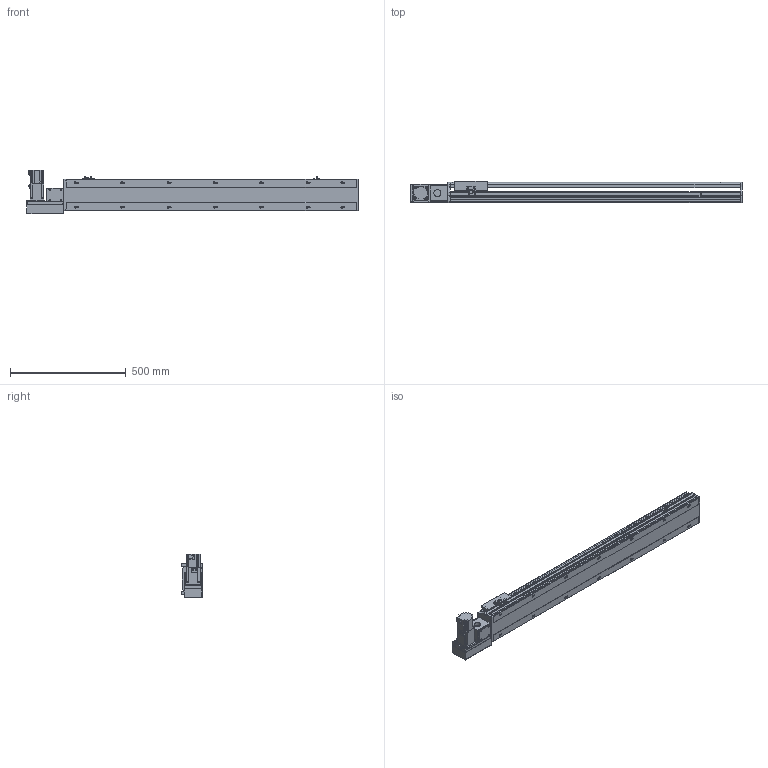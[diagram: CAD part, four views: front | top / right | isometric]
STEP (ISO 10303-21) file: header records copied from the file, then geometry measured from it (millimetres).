
FILE_DESCRIPTION(/* description */ ('STEP AP214'),/* implementation_level */ '2;1');
FILE_NAME(/* name */ 'PBS140S-P40-S1000-L-T40-C1-N(0)',/* time_stamp */ '2022-06-09T02:01:24+02:00',/* author */ ('License CC BY-ND 4.0'),/* organization */ ('CADENAS'),/* preprocessor_version */ 'ST-DEVELOPER v18.102',/* originating_system */ 'PARTsolutions',/* authorisation */ ' ');
FILE_SCHEMA (('AUTOMOTIVE_DESIGN {1 0 10303 214 3 1 1}'));
Length unit declared in the file: millimetre
Products named in the file (7): PBS140S-P40-S1000-L-T40-C1-N(0); PBS140S_sensor; PBS140S_plant; PBS140S_sliser; T40-p1; PBS140ST-L_motors; PBS140S-S1000()_body
Assembly tree (8 placements, depth 2):
  PBS140S-P40-S1000-L-T40-C1-N(0)
    PBS140S_sensor  x3
    PBS140S_plant
    PBS140S_sliser
    T40-p1
    PBS140ST-L_motors
    PBS140S-S1000()_body
Bounding box: 1433 x 93 x 189.7 mm (x, y, z)
Volume: 7039918.3 mm3; surface area: 1218909.5 mm2
Topology: 8 solids, 8 shells, 1083 faces, 2871 edges, 1879 vertices
Faces by surface type: plane 696, cylinder 337, cone 40, sphere 8, torus 2
Full cylindrical faces by diameter (mm): 3.242 x4, 4 x2, 4.134 x4, 4.4 x8, 4.5 x2, 4.8 x4, 4.917 x22, 5.5 x7, 6 x2, 7 x16, 7.5 x8, 8 x12, 8.5 x4, 10.5 x14, 14 x1, 30 x2, 50 x2
Entity records: 31038 total; most frequent: CARTESIAN_POINT 5704, DIRECTION 5278, ORIENTED_EDGE 5002, EDGE_CURVE 2501, AXIS2_PLACEMENT_3D 1829, VERTEX_POINT 1729, LINE 1620, VECTOR 1620
